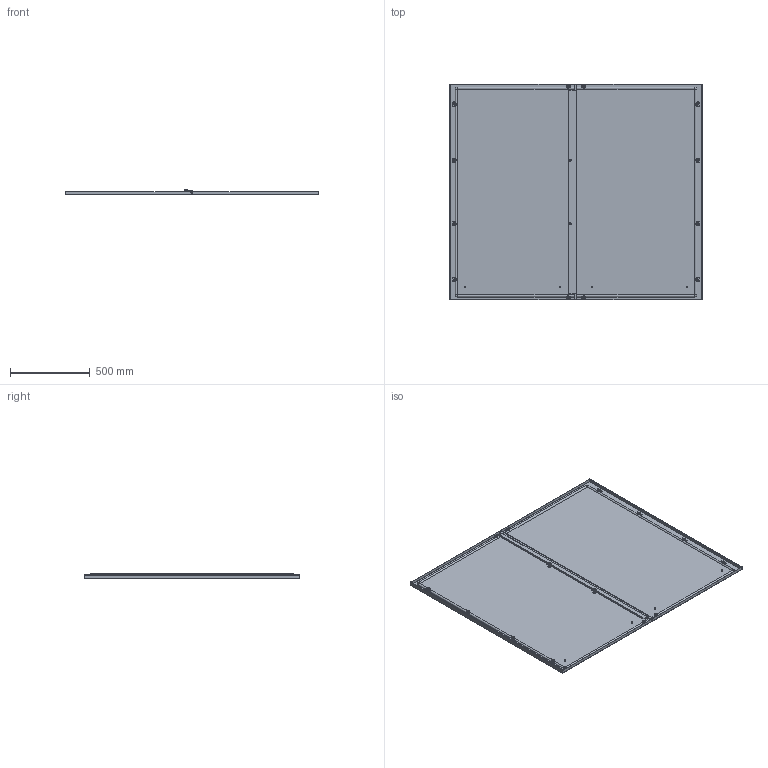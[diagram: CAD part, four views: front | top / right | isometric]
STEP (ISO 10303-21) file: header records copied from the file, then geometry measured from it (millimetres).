
FILE_DESCRIPTION(('Open CASCADE Model'),'2;1');
FILE_NAME('Open CASCADE Shape Model','2025-02-10T17:36:34',('Author'),( 'Open CASCADE'),'Open CASCADE STEP processor 7.8','Open CASCADE 7.8' ,'Unknown');
FILE_SCHEMA(('AUTOMOTIVE_DESIGN { 1 0 10303 214 1 1 1 1 }'));
Length unit declared in the file: millimetre
Products named in the file (19): Compound1; Compound2; Compound3; Solid1; Solid2; Solid3; Compound4; Compound5; Solid4; Compound6; Solid5; Solid6; Solid7; Solid8; Solid9; Solid10; Solid11; Solid12; Solid13
Assembly tree (67 placements, depth 4):
  Compound1
    Compound2
      Compound3
        Solid1
        Solid2  x3
      Solid3
    Compound4
      Compound5
        Solid4
        Solid2  x3
      Solid3
    Compound6  x2
      Solid5
      Solid6
    Solid7
    Solid8  x14
    Solid9  x2
    Solid10  x2
    Solid11  x12
    Solid12  x6
    Solid13  x12
Bounding box: 1594 x 1355 x 36.26 mm (x, y, z)
Volume: 4297784.1 mm3; surface area: 5196683.6 mm2
Topology: 63 solids, 63 shells, 1828 faces, 4488 edges, 2810 vertices
Faces by surface type: plane 1351, cylinder 237, cone 164, torus 46, bspline 28, revolution 2
Full cylindrical faces by diameter (mm): 4.92 x14, 5 x26, 6 x36, 6.5 x2, 7.5 x8, 8 x24, 9 x4, 9.1 x2, 10 x16, 11.57 x14
Entity records: 13674 total; most frequent: CARTESIAN_POINT 2779, DIRECTION 2150, ORIENTED_EDGE 2146, EDGE_CURVE 1073, LINE 763, VECTOR 763, AXIS2_PLACEMENT_3D 693, VERTEX_POINT 673
